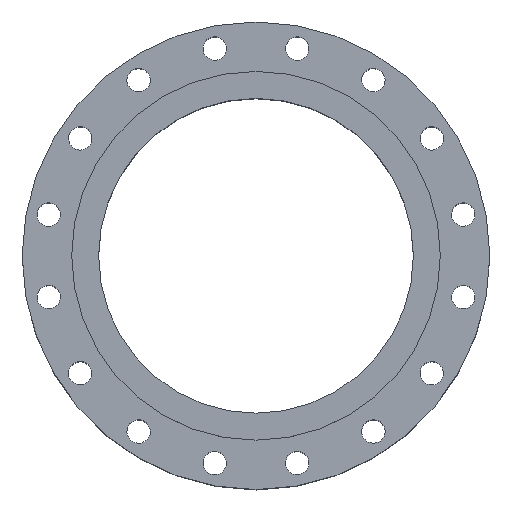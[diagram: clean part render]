
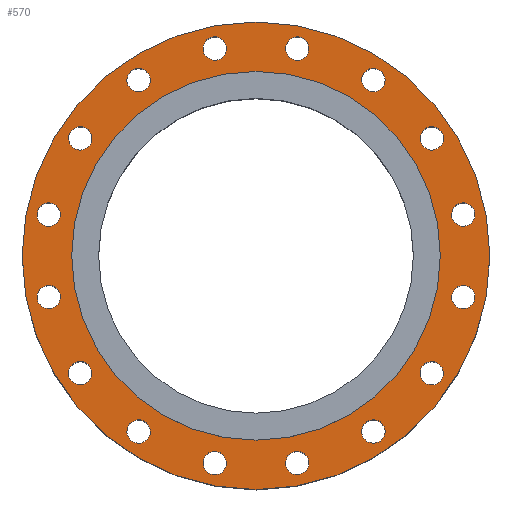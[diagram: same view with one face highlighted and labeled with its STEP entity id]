
A CAD part, top view. The second image highlights one B-rep face of the part: STEP entity #570.
In plain terms, the highlighted planar face has unit normal (0, 0, 1).
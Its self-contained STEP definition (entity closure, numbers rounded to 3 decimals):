
#570=ADVANCED_FACE('',(#1227,#1229,#1231,#1233,#1235,#1237,#1239,#1241,#1243,#1245,
#1247,#1249,#1251,#1253,#1255,#1257,#1259,#1261),#1263,.T.);
#1227=FACE_BOUND('',#1228,.T.);
#1228=EDGE_LOOP('',(#1588));
#1229=FACE_BOUND('',#1230,.T.);
#1230=EDGE_LOOP('',(#1589));
#1231=FACE_BOUND('',#1232,.T.);
#1232=EDGE_LOOP('',(#1590));
#1233=FACE_BOUND('',#1234,.T.);
#1234=EDGE_LOOP('',(#1591));
#1235=FACE_BOUND('',#1236,.T.);
#1236=EDGE_LOOP('',(#1592));
#1237=FACE_BOUND('',#1238,.T.);
#1238=EDGE_LOOP('',(#1593));
#1239=FACE_BOUND('',#1240,.T.);
#1240=EDGE_LOOP('',(#1594));
#1241=FACE_BOUND('',#1242,.T.);
#1242=EDGE_LOOP('',(#1595));
#1243=FACE_BOUND('',#1244,.T.);
#1244=EDGE_LOOP('',(#1596));
#1245=FACE_BOUND('',#1246,.T.);
#1246=EDGE_LOOP('',(#1597));
#1247=FACE_BOUND('',#1248,.T.);
#1248=EDGE_LOOP('',(#1598));
#1249=FACE_BOUND('',#1250,.T.);
#1250=EDGE_LOOP('',(#1599));
#1251=FACE_BOUND('',#1252,.T.);
#1252=EDGE_LOOP('',(#1600));
#1253=FACE_BOUND('',#1254,.T.);
#1254=EDGE_LOOP('',(#1601));
#1255=FACE_BOUND('',#1256,.T.);
#1256=EDGE_LOOP('',(#1602));
#1257=FACE_BOUND('',#1258,.T.);
#1258=EDGE_LOOP('',(#1603));
#1259=FACE_BOUND('',#1260,.T.);
#1260=EDGE_LOOP('',(#1604));
#1261=FACE_BOUND('',#1262,.T.);
#1262=EDGE_LOOP('',(#1605));
#1263=PLANE('',#1264);
#1264=AXIS2_PLACEMENT_3D('',#1265,#1266,#1267);
#1265=CARTESIAN_POINT('',(0.,0.,122.5));
#1266=DIRECTION('',(0.,0.,1.));
#1267=DIRECTION('',(0.,1.,0.));
#1588=ORIENTED_EDGE('',*,*,#1724,.F.);
#1589=ORIENTED_EDGE('',*,*,#1725,.T.);
#1590=ORIENTED_EDGE('',*,*,#1726,.T.);
#1591=ORIENTED_EDGE('',*,*,#1727,.T.);
#1592=ORIENTED_EDGE('',*,*,#1728,.T.);
#1593=ORIENTED_EDGE('',*,*,#1729,.T.);
#1594=ORIENTED_EDGE('',*,*,#1730,.T.);
#1595=ORIENTED_EDGE('',*,*,#1731,.T.);
#1596=ORIENTED_EDGE('',*,*,#1732,.T.);
#1597=ORIENTED_EDGE('',*,*,#1733,.T.);
#1598=ORIENTED_EDGE('',*,*,#1734,.T.);
#1599=ORIENTED_EDGE('',*,*,#1735,.T.);
#1600=ORIENTED_EDGE('',*,*,#1736,.T.);
#1601=ORIENTED_EDGE('',*,*,#1737,.T.);
#1602=ORIENTED_EDGE('',*,*,#1738,.T.);
#1603=ORIENTED_EDGE('',*,*,#1739,.T.);
#1604=ORIENTED_EDGE('',*,*,#1758,.T.);
#1605=ORIENTED_EDGE('',*,*,#1740,.T.);
#1724=EDGE_CURVE('',#1918,#1918,#1919,.T.);
#1725=EDGE_CURVE('',#1920,#1920,#1921,.T.);
#1726=EDGE_CURVE('',#1922,#1922,#1923,.T.);
#1727=EDGE_CURVE('',#1924,#1924,#1925,.T.);
#1728=EDGE_CURVE('',#1926,#1926,#1927,.T.);
#1729=EDGE_CURVE('',#1928,#1928,#1929,.T.);
#1730=EDGE_CURVE('',#1930,#1930,#1931,.T.);
#1731=EDGE_CURVE('',#1932,#1932,#1933,.T.);
#1732=EDGE_CURVE('',#1934,#1934,#1935,.T.);
#1733=EDGE_CURVE('',#1936,#1936,#1937,.T.);
#1734=EDGE_CURVE('',#1938,#1938,#1939,.T.);
#1735=EDGE_CURVE('',#1940,#1940,#1941,.T.);
#1736=EDGE_CURVE('',#1942,#1942,#1943,.T.);
#1737=EDGE_CURVE('',#1944,#1944,#1945,.T.);
#1738=EDGE_CURVE('',#1946,#1946,#1947,.T.);
#1739=EDGE_CURVE('',#1948,#1948,#1949,.T.);
#1740=EDGE_CURVE('',#1950,#1950,#1951,.T.);
#1758=EDGE_CURVE('',#1986,#1986,#1987,.T.);
#1918=VERTEX_POINT('',#3349);
#1919=CIRCLE('',#3350,260.);
#1920=VERTEX_POINT('',#3354);
#1921=CIRCLE('',#3355,13.);
#1922=VERTEX_POINT('',#3359);
#1923=CIRCLE('',#3360,13.);
#1924=VERTEX_POINT('',#3364);
#1925=CIRCLE('',#3365,13.);
#1926=VERTEX_POINT('',#3369);
#1927=CIRCLE('',#3370,13.);
#1928=VERTEX_POINT('',#3374);
#1929=CIRCLE('',#3375,13.);
#1930=VERTEX_POINT('',#3379);
#1931=CIRCLE('',#3380,13.);
#1932=VERTEX_POINT('',#3384);
#1933=CIRCLE('',#3385,13.);
#1934=VERTEX_POINT('',#3389);
#1935=CIRCLE('',#3390,13.);
#1936=VERTEX_POINT('',#3394);
#1937=CIRCLE('',#3395,13.);
#1938=VERTEX_POINT('',#3399);
#1939=CIRCLE('',#3400,13.);
#1940=VERTEX_POINT('',#3404);
#1941=CIRCLE('',#3405,13.);
#1942=VERTEX_POINT('',#3409);
#1943=CIRCLE('',#3410,13.);
#1944=VERTEX_POINT('',#3414);
#1945=CIRCLE('',#3415,13.);
#1946=VERTEX_POINT('',#3419);
#1947=CIRCLE('',#3420,13.);
#1948=VERTEX_POINT('',#3424);
#1949=CIRCLE('',#3425,13.);
#1950=VERTEX_POINT('',#3429);
#1951=CIRCLE('',#3430,13.);
#1986=VERTEX_POINT('',#3519);
#1987=CIRCLE('',#3520,205.);
#3349=CARTESIAN_POINT('',(0.,260.,122.5));
#3350=AXIS2_PLACEMENT_3D('',#3351,#3352,#3353);
#3351=CARTESIAN_POINT('',(0.,0.,122.5));
#3352=DIRECTION('',(0.,0.,-1.));
#3353=DIRECTION('',(0.,1.,0.));
#3354=CARTESIAN_POINT('',(118.549,200.37,122.5));
#3355=AXIS2_PLACEMENT_3D('',#3356,#3357,#3358);
#3356=CARTESIAN_POINT('',(130.559,195.395,122.5));
#3357=DIRECTION('',(0.,0.,-1.));
#3358=DIRECTION('',(-0.924,0.383,0.));
#3359=CARTESIAN_POINT('',(186.203,139.751,122.5));
#3360=AXIS2_PLACEMENT_3D('',#3361,#3362,#3363);
#3361=CARTESIAN_POINT('',(195.395,130.559,122.5));
#3362=DIRECTION('',(0.,0.,-1.));
#3363=DIRECTION('',(-0.707,0.707,0.));
#3364=CARTESIAN_POINT('',(225.51,57.857,122.5));
#3365=AXIS2_PLACEMENT_3D('',#3366,#3367,#3368);
#3366=CARTESIAN_POINT('',(230.485,45.846,122.5));
#3367=DIRECTION('',(0.,0.,-1.));
#3368=DIRECTION('',(-0.383,0.924,0.));
#3369=CARTESIAN_POINT('',(230.485,-32.846,122.5));
#3370=AXIS2_PLACEMENT_3D('',#3371,#3372,#3373);
#3371=CARTESIAN_POINT('',(230.485,-45.846,122.5));
#3372=DIRECTION('',(0.,0.,-1.));
#3373=DIRECTION('',(0.,1.,0.));
#3374=CARTESIAN_POINT('',(200.37,-118.549,122.5));
#3375=AXIS2_PLACEMENT_3D('',#3376,#3377,#3378);
#3376=CARTESIAN_POINT('',(195.395,-130.559,122.5));
#3377=DIRECTION('',(0.,0.,-1.));
#3378=DIRECTION('',(0.383,0.924,0.));
#3379=CARTESIAN_POINT('',(139.751,-186.203,122.5));
#3380=AXIS2_PLACEMENT_3D('',#3381,#3382,#3383);
#3381=CARTESIAN_POINT('',(130.559,-195.395,122.5));
#3382=DIRECTION('',(0.,0.,-1.));
#3383=DIRECTION('',(0.707,0.707,0.));
#3384=CARTESIAN_POINT('',(57.857,-225.51,122.5));
#3385=AXIS2_PLACEMENT_3D('',#3386,#3387,#3388);
#3386=CARTESIAN_POINT('',(45.846,-230.485,122.5));
#3387=DIRECTION('',(0.,0.,-1.));
#3388=DIRECTION('',(0.924,0.383,0.));
#3389=CARTESIAN_POINT('',(-32.846,-230.485,122.5));
#3390=AXIS2_PLACEMENT_3D('',#3391,#3392,#3393);
#3391=CARTESIAN_POINT('',(-45.846,-230.485,122.5));
#3392=DIRECTION('',(0.,0.,-1.));
#3393=DIRECTION('',(1.,0.,0.));
#3394=CARTESIAN_POINT('',(-118.549,-200.37,122.5));
#3395=AXIS2_PLACEMENT_3D('',#3396,#3397,#3398);
#3396=CARTESIAN_POINT('',(-130.559,-195.395,122.5));
#3397=DIRECTION('',(0.,0.,-1.));
#3398=DIRECTION('',(0.924,-0.383,0.));
#3399=CARTESIAN_POINT('',(-186.203,-139.751,122.5));
#3400=AXIS2_PLACEMENT_3D('',#3401,#3402,#3403);
#3401=CARTESIAN_POINT('',(-195.395,-130.559,122.5));
#3402=DIRECTION('',(0.,0.,-1.));
#3403=DIRECTION('',(0.707,-0.707,0.));
#3404=CARTESIAN_POINT('',(-225.51,-57.857,122.5));
#3405=AXIS2_PLACEMENT_3D('',#3406,#3407,#3408);
#3406=CARTESIAN_POINT('',(-230.485,-45.846,122.5));
#3407=DIRECTION('',(0.,0.,-1.));
#3408=DIRECTION('',(0.383,-0.924,0.));
#3409=CARTESIAN_POINT('',(-230.485,32.846,122.5));
#3410=AXIS2_PLACEMENT_3D('',#3411,#3412,#3413);
#3411=CARTESIAN_POINT('',(-230.485,45.846,122.5));
#3412=DIRECTION('',(0.,0.,-1.));
#3413=DIRECTION('',(0.,-1.,0.));
#3414=CARTESIAN_POINT('',(-200.37,118.549,122.5));
#3415=AXIS2_PLACEMENT_3D('',#3416,#3417,#3418);
#3416=CARTESIAN_POINT('',(-195.395,130.559,122.5));
#3417=DIRECTION('',(0.,0.,-1.));
#3418=DIRECTION('',(-0.383,-0.924,0.));
#3419=CARTESIAN_POINT('',(-139.751,186.203,122.5));
#3420=AXIS2_PLACEMENT_3D('',#3421,#3422,#3423);
#3421=CARTESIAN_POINT('',(-130.559,195.395,122.5));
#3422=DIRECTION('',(0.,0.,-1.));
#3423=DIRECTION('',(-0.707,-0.707,0.));
#3424=CARTESIAN_POINT('',(-57.857,225.51,122.5));
#3425=AXIS2_PLACEMENT_3D('',#3426,#3427,#3428);
#3426=CARTESIAN_POINT('',(-45.846,230.485,122.5));
#3427=DIRECTION('',(0.,0.,-1.));
#3428=DIRECTION('',(-0.924,-0.383,0.));
#3429=CARTESIAN_POINT('',(32.846,230.485,122.5));
#3430=AXIS2_PLACEMENT_3D('',#3431,#3432,#3433);
#3431=CARTESIAN_POINT('',(45.846,230.485,122.5));
#3432=DIRECTION('',(0.,0.,-1.));
#3433=DIRECTION('',(-1.,0.,0.));
#3519=CARTESIAN_POINT('',(0.,205.,122.5));
#3520=AXIS2_PLACEMENT_3D('',#3521,#3522,#3523);
#3521=CARTESIAN_POINT('',(0.,0.,122.5));
#3522=DIRECTION('',(0.,0.,-1.));
#3523=DIRECTION('',(0.,1.,0.));
